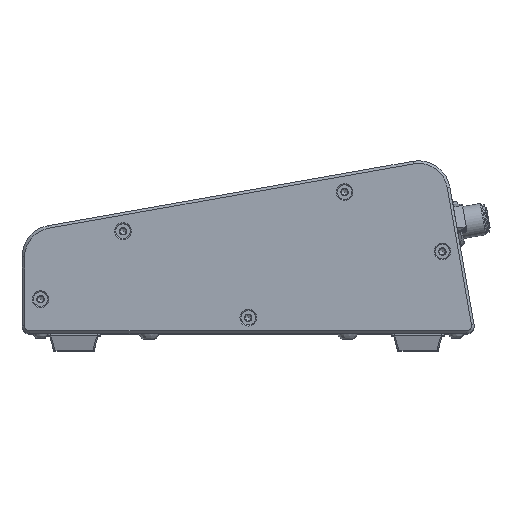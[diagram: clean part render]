
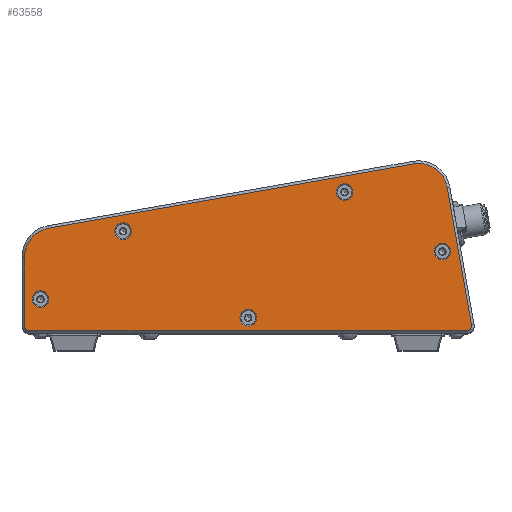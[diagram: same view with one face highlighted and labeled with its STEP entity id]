
A CAD part, top view. The second image highlights one B-rep face of the part: STEP entity #63558.
In plain terms, the highlighted planar face has unit normal (0, 0, 1).
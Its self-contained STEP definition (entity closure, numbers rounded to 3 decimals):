
#195 = CIRCLE ( 'NONE', #79869, 2. ) ;
#673 = DIRECTION ( 'NONE',  ( 1., 0., 0. ) ) ;
#1361 = EDGE_CURVE ( 'NONE', #30354, #17559, #29497, .T. ) ;
#3502 = DIRECTION ( 'NONE',  ( 0., -1., 0. ) ) ;
#6584 = VERTEX_POINT ( 'NONE', #113415 ) ;
#8706 = EDGE_CURVE ( 'NONE', #89254, #26359, #27524, .T. ) ;
#10941 = CARTESIAN_POINT ( 'NONE',  ( -40.986, 6.879, 82. ) ) ;
#13749 = FACE_BOUND ( 'NONE', #21458, .T. ) ;
#14460 = VECTOR ( 'NONE', #3502, 1000. ) ;
#14682 = CIRCLE ( 'NONE', #88822, 11. ) ;
#15458 = DIRECTION ( 'NONE',  ( 1., 0., 0. ) ) ;
#16059 = ORIENTED_EDGE ( 'NONE', *, *, #111317, .F. ) ;
#16512 = CARTESIAN_POINT ( 'NONE',  ( 88.683, -30.82, 82. ) ) ;
#17512 = CARTESIAN_POINT ( 'NONE',  ( -67.2, -2.82, 82. ) ) ;
#17559 = VERTEX_POINT ( 'NONE', #100191 ) ;
#18199 = DIRECTION ( 'NONE',  ( 1., 0., 0. ) ) ;
#18323 = EDGE_LOOP ( 'NONE', ( #101844 ) ) ;
#19669 = CARTESIAN_POINT ( 'NONE',  ( -78.2, -4.712, 82. ) ) ;
#20789 = VERTEX_POINT ( 'NONE', #114835 ) ;
#21104 = ORIENTED_EDGE ( 'NONE', *, *, #32463, .T. ) ;
#21238 = AXIS2_PLACEMENT_3D ( 'NONE', #50853, #33348, #93824 ) ;
#21458 = EDGE_LOOP ( 'NONE', ( #80671 ) ) ;
#23505 = DIRECTION ( 'NONE',  ( 0., 0., 1. ) ) ;
#24389 = DIRECTION ( 'NONE',  ( 1., 0., 0. ) ) ;
#25064 = ORIENTED_EDGE ( 'NONE', *, *, #93704, .T. ) ;
#25535 = CARTESIAN_POINT ( 'NONE',  ( 42.723, 21.639, 82. ) ) ;
#25818 = CARTESIAN_POINT ( 'NONE',  ( 81.506, 23.401, 82. ) ) ;
#26359 = VERTEX_POINT ( 'NONE', #39120 ) ;
#26386 = CARTESIAN_POINT ( 'NONE',  ( -7.441, 18.887, 82. ) ) ;
#26849 = DIRECTION ( 'NONE',  ( 0., 0., 1. ) ) ;
#27524 = LINE ( 'NONE', #26386, #66820 ) ;
#27973 = EDGE_CURVE ( 'NONE', #45408, #89254, #83459, .T. ) ;
#28419 = CIRCLE ( 'NONE', #102594, 2. ) ;
#29022 = ORIENTED_EDGE ( 'NONE', *, *, #95475, .T. ) ;
#29497 = LINE ( 'NONE', #19669, #14460 ) ;
#30354 = VERTEX_POINT ( 'NONE', #82047 ) ;
#30463 = CARTESIAN_POINT ( 'NONE',  ( 83.757, 10.635, 82. ) ) ;
#32463 = EDGE_CURVE ( 'NONE', #17559, #20789, #195, .T. ) ;
#33246 = CIRCLE ( 'NONE', #105701, 3.15 ) ;
#33348 = DIRECTION ( 'NONE',  ( 0., 0., 1. ) ) ;
#33372 = FACE_BOUND ( 'NONE', #50124, .T. ) ;
#35960 = DIRECTION ( 'NONE',  ( 0., 0., 1. ) ) ;
#36345 = ORIENTED_EDGE ( 'NONE', *, *, #1361, .T. ) ;
#36927 = CARTESIAN_POINT ( 'NONE',  ( 68.763, 32.324, 82. ) ) ;
#39120 = CARTESIAN_POINT ( 'NONE',  ( -69.11, 8.013, 82. ) ) ;
#40214 = EDGE_CURVE ( 'NONE', #75034, #75034, #76656, .T. ) ;
#40968 = FACE_BOUND ( 'NONE', #18323, .T. ) ;
#44076 = EDGE_LOOP ( 'NONE', ( #80970 ) ) ;
#45408 = VERTEX_POINT ( 'NONE', #25818 ) ;
#46319 = DIRECTION ( 'NONE',  ( 1., 0., 0. ) ) ;
#46827 = AXIS2_PLACEMENT_3D ( 'NONE', #64342, #62628, #53364 ) ;
#49102 = CARTESIAN_POINT ( 'NONE',  ( 90.653, -28.473, 82. ) ) ;
#49309 = EDGE_CURVE ( 'NONE', #6584, #6584, #33246, .T. ) ;
#50124 = EDGE_LOOP ( 'NONE', ( #16059 ) ) ;
#50853 = CARTESIAN_POINT ( 'NONE',  ( 79.678, -0.784, 82. ) ) ;
#51641 = CARTESIAN_POINT ( 'NONE',  ( 82.828, -0.784, 82. ) ) ;
#52391 = DIRECTION ( 'NONE',  ( 1., 0., 0. ) ) ;
#53082 = VERTEX_POINT ( 'NONE', #69347 ) ;
#53151 = DIRECTION ( 'NONE',  ( -0.985, -0.174, 0. ) ) ;
#53364 = DIRECTION ( 'NONE',  ( 1., 0., 0. ) ) ;
#54450 = AXIS2_PLACEMENT_3D ( 'NONE', #68889, #111925, #67166 ) ;
#56328 = DIRECTION ( 'NONE',  ( 0., 0., 1. ) ) ;
#56683 = ORIENTED_EDGE ( 'NONE', *, *, #27973, .T. ) ;
#59507 = CARTESIAN_POINT ( 'NONE',  ( -69.05, -18.82, 82. ) ) ;
#62628 = DIRECTION ( 'NONE',  ( 0., 0., 1. ) ) ;
#63060 = VECTOR ( 'NONE', #74896, 1000. ) ;
#63528 = VECTOR ( 'NONE', #83333, 1000. ) ;
#63558 = ADVANCED_FACE ( 'NONE', ( #101995, #33372, #85089, #13749, #40968, #85683 ), #95024, .T. ) ;
#64342 = CARTESIAN_POINT ( 'NONE',  ( -72.2, -18.82, 82. ) ) ;
#64487 = LINE ( 'NONE', #99891, #63060 ) ;
#66740 = AXIS2_PLACEMENT_3D ( 'NONE', #109814, #56328, #108089 ) ;
#66820 = VECTOR ( 'NONE', #53151, 1000. ) ;
#67166 = DIRECTION ( 'NONE',  ( 1., 0., 0. ) ) ;
#68889 = CARTESIAN_POINT ( 'NONE',  ( 6.3, -25.82, 82. ) ) ;
#69347 = CARTESIAN_POINT ( 'NONE',  ( 45.873, 21.639, 82. ) ) ;
#69747 = DIRECTION ( 'NONE',  ( 0., 0., 1. ) ) ;
#73098 = EDGE_CURVE ( 'NONE', #87045, #87045, #95504, .T. ) ;
#74896 = DIRECTION ( 'NONE',  ( 1., 0., 0. ) ) ;
#75034 = VERTEX_POINT ( 'NONE', #100033 ) ;
#75590 = EDGE_LOOP ( 'NONE', ( #94869, #25064, #36345, #21104, #29022, #82827, #93127, #56683 ) ) ;
#76656 = CIRCLE ( 'NONE', #54450, 3.15 ) ;
#79869 = AXIS2_PLACEMENT_3D ( 'NONE', #80136, #35960, #673 ) ;
#80136 = CARTESIAN_POINT ( 'NONE',  ( -76.2, -28.82, 82. ) ) ;
#80671 = ORIENTED_EDGE ( 'NONE', *, *, #73098, .F. ) ;
#80970 = ORIENTED_EDGE ( 'NONE', *, *, #110553, .F. ) ;
#82047 = CARTESIAN_POINT ( 'NONE',  ( -78.2, -2.82, 82. ) ) ;
#82822 = DIRECTION ( 'NONE',  ( 0., 0., 1. ) ) ;
#82827 = ORIENTED_EDGE ( 'NONE', *, *, #100004, .T. ) ;
#83333 = DIRECTION ( 'NONE',  ( -0.174, 0.985, 0. ) ) ;
#83459 = CIRCLE ( 'NONE', #66740, 11. ) ;
#85089 = FACE_BOUND ( 'NONE', #44076, .T. ) ;
#85683 = FACE_OUTER_BOUND ( 'NONE', #75590, .T. ) ;
#85884 = CIRCLE ( 'NONE', #102675, 3.15 ) ;
#87045 = VERTEX_POINT ( 'NONE', #51641 ) ;
#88822 = AXIS2_PLACEMENT_3D ( 'NONE', #17512, #69747, #52391 ) ;
#89047 = CARTESIAN_POINT ( 'NONE',  ( 88.683, -28.82, 82. ) ) ;
#89254 = VERTEX_POINT ( 'NONE', #36927 ) ;
#90301 = VERTEX_POINT ( 'NONE', #16512 ) ;
#92087 = LINE ( 'NONE', #30463, #63528 ) ;
#93127 = ORIENTED_EDGE ( 'NONE', *, *, #98925, .T. ) ;
#93704 = EDGE_CURVE ( 'NONE', #26359, #30354, #14682, .T. ) ;
#93824 = DIRECTION ( 'NONE',  ( 1., 0., 0. ) ) ;
#94869 = ORIENTED_EDGE ( 'NONE', *, *, #8706, .T. ) ;
#95024 = PLANE ( 'NONE',  #101065 ) ;
#95475 = EDGE_CURVE ( 'NONE', #20789, #90301, #64487, .T. ) ;
#95504 = CIRCLE ( 'NONE', #21238, 3.15 ) ;
#97727 = EDGE_LOOP ( 'NONE', ( #100288 ) ) ;
#98925 = EDGE_CURVE ( 'NONE', #103788, #45408, #92087, .T. ) ;
#99891 = CARTESIAN_POINT ( 'NONE',  ( -3.28, -30.82, 82. ) ) ;
#100004 = EDGE_CURVE ( 'NONE', #90301, #103788, #28419, .T. ) ;
#100033 = CARTESIAN_POINT ( 'NONE',  ( 9.45, -25.82, 82. ) ) ;
#100191 = CARTESIAN_POINT ( 'NONE',  ( -78.2, -28.82, 82. ) ) ;
#100288 = ORIENTED_EDGE ( 'NONE', *, *, #49309, .F. ) ;
#101065 = AXIS2_PLACEMENT_3D ( 'NONE', #113066, #23505, #15458 ) ;
#101844 = ORIENTED_EDGE ( 'NONE', *, *, #40214, .F. ) ;
#101995 = FACE_BOUND ( 'NONE', #97727, .T. ) ;
#102594 = AXIS2_PLACEMENT_3D ( 'NONE', #89047, #26849, #18199 ) ;
#102675 = AXIS2_PLACEMENT_3D ( 'NONE', #25535, #112207, #24389 ) ;
#103788 = VERTEX_POINT ( 'NONE', #49102 ) ;
#104231 = VERTEX_POINT ( 'NONE', #59507 ) ;
#105701 = AXIS2_PLACEMENT_3D ( 'NONE', #10941, #82822, #46319 ) ;
#108089 = DIRECTION ( 'NONE',  ( 1., 0., 0. ) ) ;
#109814 = CARTESIAN_POINT ( 'NONE',  ( 70.673, 21.491, 82. ) ) ;
#110553 = EDGE_CURVE ( 'NONE', #104231, #104231, #113701, .T. ) ;
#111317 = EDGE_CURVE ( 'NONE', #53082, #53082, #85884, .T. ) ;
#111925 = DIRECTION ( 'NONE',  ( 0., 0., 1. ) ) ;
#112207 = DIRECTION ( 'NONE',  ( 0., 0., 1. ) ) ;
#113066 = CARTESIAN_POINT ( 'NONE',  ( -3.28, -4.712, 82. ) ) ;
#113415 = CARTESIAN_POINT ( 'NONE',  ( -37.836, 6.879, 82. ) ) ;
#113701 = CIRCLE ( 'NONE', #46827, 3.15 ) ;
#114835 = CARTESIAN_POINT ( 'NONE',  ( -76.2, -30.82, 82. ) ) ;
